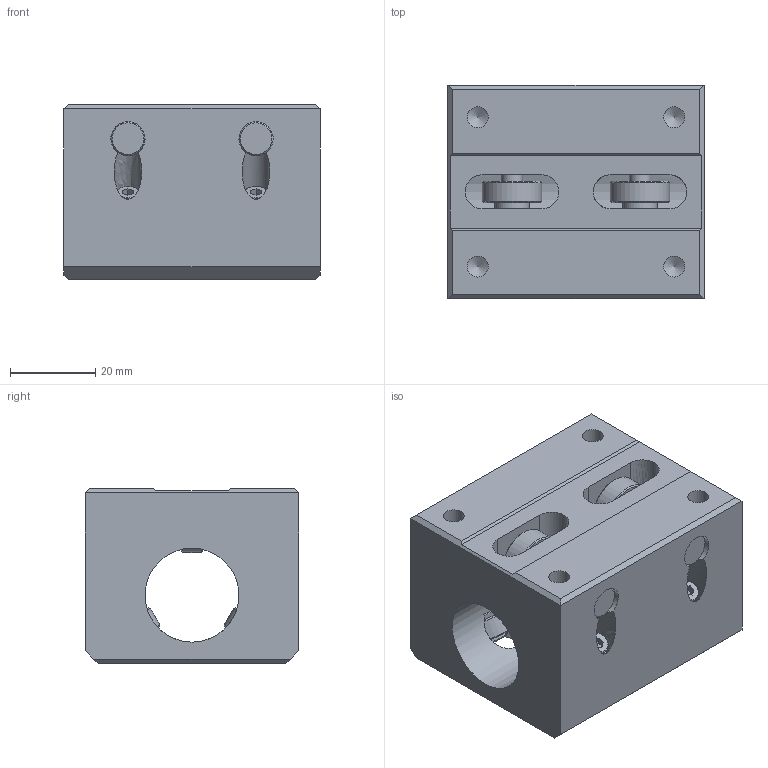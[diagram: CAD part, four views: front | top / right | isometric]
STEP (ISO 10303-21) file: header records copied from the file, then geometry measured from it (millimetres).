
FILE_DESCRIPTION((''),'2;1');
FILE_NAME('D:\製品 (図面)\カタログ用3D\リニアガイド関連\STEP形式\SLHB\SLHB20.stp','2010-06-02T17:00:10',('Tsuchiya'),(''),'Autodesk Inventor 10','Autodesk Inventor 10','');
FILE_SCHEMA(('AUTOMOTIVE_DESIGN { 1 0 10303 214 1 1 1 1 }'));
Length unit declared in the file: millimetre
Products named in the file (1): SLHB20
Bounding box: 60 x 50 x 41 mm (x, y, z)
Volume: 87571.7 mm3; surface area: 25606.4 mm2
Topology: 1 solids, 1 shells, 177 faces, 413 edges, 266 vertices
Faces by surface type: bspline 73, plane 56, cylinder 25, cone 20, torus 3
Full cylindrical faces by diameter (mm): 4.917 x2, 5 x3, 5.5 x3, 6.5 x3, 8 x3, 14 x3, 16 x2, 22 x1
Entity records: 5418 total; most frequent: CARTESIAN_POINT 2115, ORIENTED_EDGE 612, DIRECTION 584, EDGE_CURVE 306, EDGE_LOOP 296, VERTEX_POINT 232, AXIS2_PLACEMENT_3D 223, FACE_OUTER_BOUND 177
